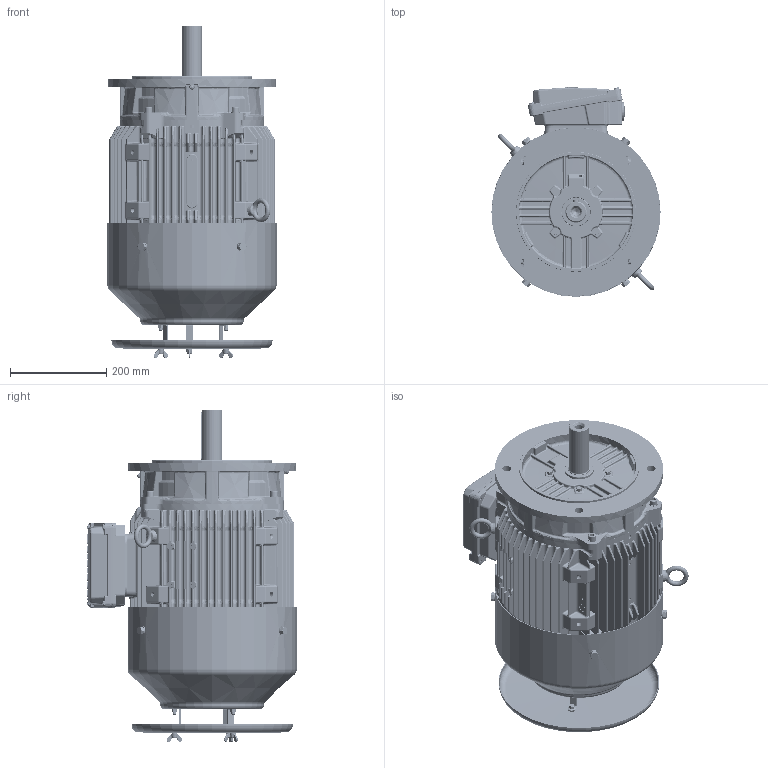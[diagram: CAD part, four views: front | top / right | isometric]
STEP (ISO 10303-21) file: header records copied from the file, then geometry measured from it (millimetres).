
FILE_DESCRIPTION (( 'STEP AP203' ), '1' );
FILE_NAME ('0216000554_RevB.STEP', '2018-07-04T07:25:51', ( '' ), ( '' ), 'SwSTEP 2.0', 'SolidWorks 2015', '' );
FILE_SCHEMA (( 'CONFIG_CONTROL_DESIGN' ));
Products named in the file (1): 0216000554_RevB
Bounding box: 352 x 435.71 x 690.7 mm (x, y, z)
Volume: 9889169.9 mm3; surface area: 2840675.5 mm2
Topology: 67 solids, 67 shells, 10130 faces, 24525 edges, 14390 vertices
Faces by surface type: cylinder 2611, bspline 2567, plane 2114, cone 1072, torus 1067, sphere 699
Entity records: 380765 total; most frequent: CARTESIAN_POINT 166543, ORIENTED_EDGE 48308, DIRECTION 41471, EDGE_CURVE 24154, AXIS2_PLACEMENT_3D 17492, VERTEX_POINT 14306, EDGE_LOOP 10676, ADVANCED_FACE 10130
